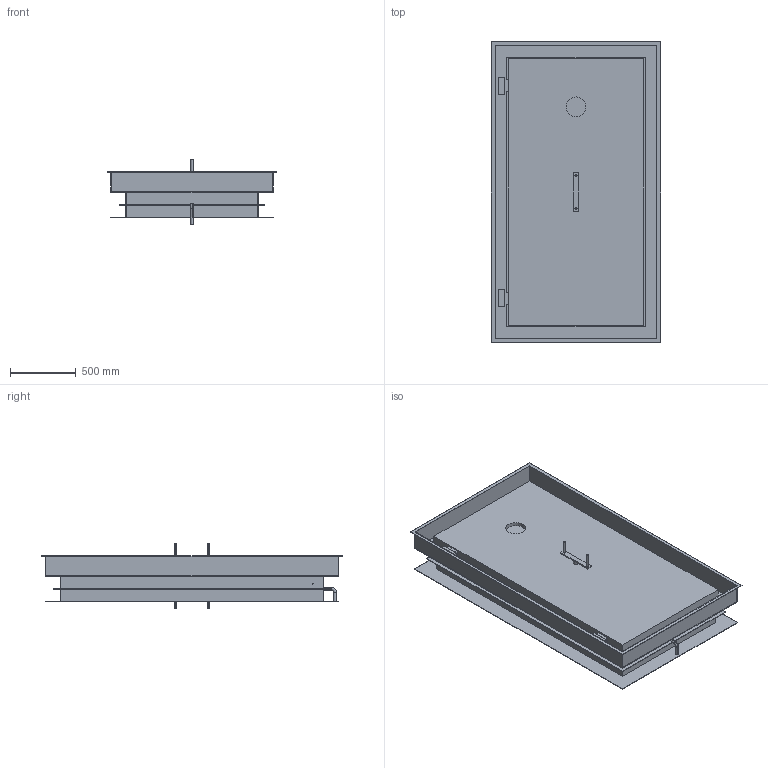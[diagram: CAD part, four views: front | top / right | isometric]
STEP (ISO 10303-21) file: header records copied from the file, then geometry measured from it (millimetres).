
FILE_DESCRIPTION((''),'2;1');
FILE_NAME('51331162','2019-03-15T',('bg'),('HUBER SE'),'PRO/ENGINEER BY PARAMETRIC TECHNOLOGY CORPORATION, 2017170','PRO/ENGINEER BY PARAMETRIC TECHNOLOGY CORPORATION, 2017170','');
FILE_SCHEMA(('AUTOMOTIVE_DESIGN { 1 0 10303 214 1 1 1 1 }'));
Length unit declared in the file: millimetre
Products named in the file (1): 51331162
Bounding box: 1290 x 2290 x 495 mm (x, y, z)
Volume: 209335171 mm3; surface area: 13614647.2 mm2
Topology: 1 solids, 1 shells, 126 faces, 302 edges, 196 vertices
Faces by surface type: plane 96, cylinder 26, torus 4
Entity records: 4694 total; most frequent: CARTESIAN_POINT 635, DIRECTION 627, ORIENTED_EDGE 604, EDGE_CURVE 302, VECTOR 242, LINE 242, VERTEX_POINT 196, AXIS2_PLACEMENT_3D 191
